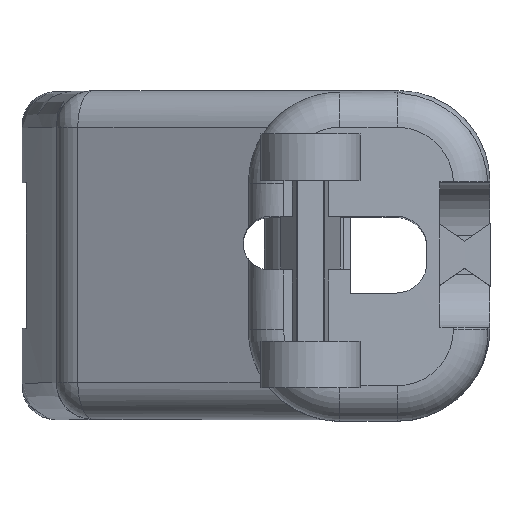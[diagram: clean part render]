
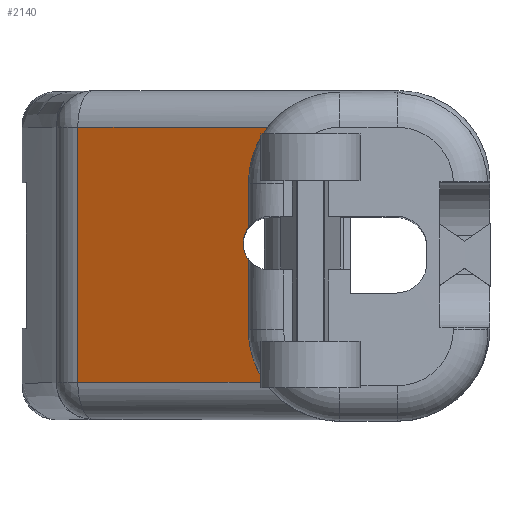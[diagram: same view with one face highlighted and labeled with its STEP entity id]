
A CAD part, top view. The second image highlights one B-rep face of the part: STEP entity #2140.
In plain terms, the highlighted planar face has unit normal (-0.412, 0, 0.911).
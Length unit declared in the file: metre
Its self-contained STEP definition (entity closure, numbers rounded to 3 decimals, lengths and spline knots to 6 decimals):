
#21=ELLIPSE('',#2285,0.001659,0.001512);
#22=ELLIPSE('',#2288,0.005608,0.005109);
#23=ELLIPSE('',#2292,0.005608,0.005109);
#62=PLANE('',#2328);
#192=LINE('',#3334,#399);
#198=LINE('',#3347,#405);
#216=LINE('',#3465,#423);
#224=LINE('',#3512,#431);
#226=LINE('',#3525,#433);
#399=VECTOR('',#2643,1.);
#405=VECTOR('',#2651,1.);
#423=VECTOR('',#2741,1.);
#431=VECTOR('',#2771,1.);
#433=VECTOR('',#2779,1.);
#922=ORIENTED_EDGE('',*,*,#1351,.T.);
#923=ORIENTED_EDGE('',*,*,#1369,.T.);
#924=ORIENTED_EDGE('',*,*,#1418,.T.);
#925=ORIENTED_EDGE('',*,*,#1422,.T.);
#926=ORIENTED_EDGE('',*,*,#1401,.T.);
#927=ORIENTED_EDGE('',*,*,#1376,.T.);
#928=ORIENTED_EDGE('',*,*,#1357,.T.);
#929=ORIENTED_EDGE('',*,*,#1366,.F.);
#1351=EDGE_CURVE('',#1645,#1644,#192,.T.);
#1357=EDGE_CURVE('',#1651,#1650,#198,.T.);
#1366=EDGE_CURVE('',#1645,#1650,#21,.F.);
#1369=EDGE_CURVE('',#1644,#1655,#22,.T.);
#1376=EDGE_CURVE('',#1661,#1651,#23,.T.);
#1401=EDGE_CURVE('',#1671,#1661,#216,.F.);
#1418=EDGE_CURVE('',#1655,#1682,#224,.F.);
#1422=EDGE_CURVE('',#1682,#1671,#226,.T.);
#1644=VERTEX_POINT('',#3333);
#1645=VERTEX_POINT('',#3335);
#1650=VERTEX_POINT('',#3346);
#1651=VERTEX_POINT('',#3348);
#1655=VERTEX_POINT('',#3372);
#1661=VERTEX_POINT('',#3392);
#1671=VERTEX_POINT('',#3466);
#1682=VERTEX_POINT('',#3511);
#1891=EDGE_LOOP('',(#922,#923,#924,#925,#926,#927,#928,#929));
#2018=FACE_BOUND('',#1891,.T.);
#2140=ADVANCED_FACE('',(#2018),#62,.F.);
#2285=AXIS2_PLACEMENT_3D('',#3366,#2668,#2669);
#2288=AXIS2_PLACEMENT_3D('',#3371,#2675,#2676);
#2292=AXIS2_PLACEMENT_3D('',#3391,#2686,#2687);
#2328=AXIS2_PLACEMENT_3D('',#3524,#2777,#2778);
#2643=DIRECTION('',(0.,1.,0.));
#2651=DIRECTION('',(0.,1.,0.));
#2668=DIRECTION('',(0.412,0.,-0.911));
#2669=DIRECTION('',(0.911,0.,0.412));
#2675=DIRECTION('',(0.412,0.,-0.911));
#2676=DIRECTION('',(-0.911,0.,-0.412));
#2686=DIRECTION('',(0.412,0.,-0.911));
#2687=DIRECTION('',(-0.911,0.,-0.412));
#2741=DIRECTION('',(-0.911,0.,-0.412));
#2771=DIRECTION('',(0.911,0.,0.412));
#2777=DIRECTION('',(0.412,0.,-0.911));
#2778=DIRECTION('',(-0.911,0.,-0.412));
#2779=DIRECTION('',(0.,-1.,0.));
#3333=CARTESIAN_POINT('',(0.020094,-0.044855,0.103778));
#3334=CARTESIAN_POINT('',(0.020094,-0.048951,0.103778));
#3335=CARTESIAN_POINT('',(0.020094,-0.047329,0.103778));
#3346=CARTESIAN_POINT('',(0.020094,-0.049118,0.103778));
#3347=CARTESIAN_POINT('',(0.020094,-0.048951,0.103778));
#3348=CARTESIAN_POINT('',(0.020094,-0.053046,0.103778));
#3366=CARTESIAN_POINT('',(0.021313,-0.048224,0.104329));
#3371=CARTESIAN_POINT('',(0.025203,-0.044855,0.106089));
#3372=CARTESIAN_POINT('',(0.02118,-0.041707,0.104269));
#3391=CARTESIAN_POINT('',(0.025203,-0.053046,0.106089));
#3392=CARTESIAN_POINT('',(0.021028,-0.05599,0.1042));
#3465=CARTESIAN_POINT('',(0.01242,-0.05599,0.100306));
#3466=CARTESIAN_POINT('',(0.010548,-0.05599,0.099458));
#3511=CARTESIAN_POINT('',(0.010548,-0.041707,0.099458));
#3512=CARTESIAN_POINT('',(0.01242,-0.041707,0.100306));
#3524=CARTESIAN_POINT('',(0.01242,-0.068461,0.100306));
#3525=CARTESIAN_POINT('',(0.010548,-0.05599,0.099458));
